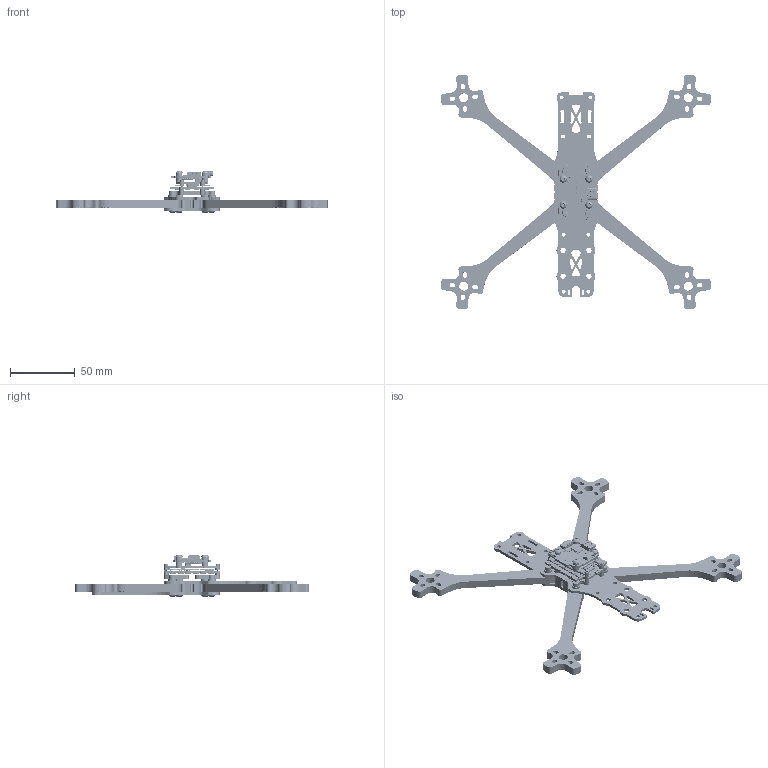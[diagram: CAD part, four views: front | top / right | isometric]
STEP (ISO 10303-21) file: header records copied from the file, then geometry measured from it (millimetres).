
FILE_DESCRIPTION (( 'STEP AP214' ), '1' );
FILE_NAME ('4IN1 6S - only.STEP', '2025-11-11T03:14:46', ( '' ), ( '' ), 'SwSTEP 2.0', 'SolidWorks 2025', '' );
FILE_SCHEMA (( 'AUTOMOTIVE_DESIGN' ));
Length unit declared in the file: millimetre
Products named in the file (11): 4IN16S_assm_render-20240514.STEP; LMODNR_render-20240513.STEP; 4IN1 6S - only; 4IN16S_render-20240513.STEP; Dampener_OD5xM3x5.STEP; Screw-Button Head Hex_M3x15_92095A119.STEP; Screw-Button Head Hex_M3x8_92095A181.STEP; Screw-Socket head_M1.6x8_91292A261.STEP; SO1-V5_render-20240513.STEP; AL mount_render-20240513.STEP; AL mount_3x30_render-20240514.STEP
Assembly tree (26 placements, depth 3):
  4IN1 6S - only
    4IN16S_assm_render-20240514.STEP
      4IN16S_render-20240513.STEP
      AL mount_render-20240513.STEP
      AL mount_3x30_render-20240514.STEP
      Dampener_OD5xM3x5.STEP  x4
      Screw-Socket head_M1.6x8_91292A261.STEP  x4
      Screw-Button Head Hex_M3x8_92095A181.STEP  x4
      SO1-V5_render-20240513.STEP
      Screw-Button Head Hex_M3x15_92095A119.STEP  x8
      LMODNR_render-20240513.STEP
Bounding box: 209.05 x 181.19 x 32.3 mm (x, y, z)
Volume: 60853 mm3; surface area: 108259.9 mm2
Topology: 217 solids, 217 shells, 18985 faces, 52457 edges, 34201 vertices
Faces by surface type: plane 10878, cylinder 5984, bspline 1497, sphere 348, cone 254, torus 24
Entity records: 644881 total; most frequent: CARTESIAN_POINT 215567, ORIENTED_EDGE 94826, DIRECTION 79221, EDGE_CURVE 47413, LINE 32889, VECTOR 32889, VERTEX_POINT 31113, AXIS2_PLACEMENT_3D 23166
